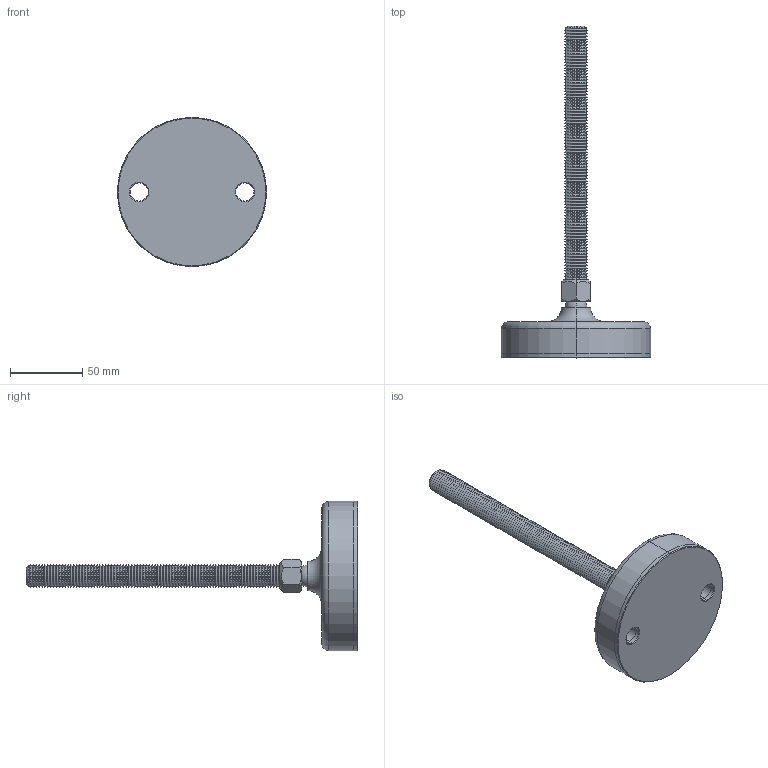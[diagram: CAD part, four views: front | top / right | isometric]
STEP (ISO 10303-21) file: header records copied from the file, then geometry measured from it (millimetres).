
FILE_DESCRIPTION (( 'STEP AP203' ), '1' );
FILE_NAME ('34724.W1702.step', '2019-11-28T22:14:33', ( '' ), ( '' ), 'SwSTEP 2.0', 'SolidWorks 2017', '' );
FILE_SCHEMA (( 'CONFIG_CONTROL_DESIGN' ));
Length unit declared in the file: millimetre
Products named in the file (4): Part2_34724.W1702; Part1_34724.W1702; Part3_34724.W1702; 34724.W1702
Assembly tree (3 placements, depth 2):
  34724.W1702
    Part1_34724.W1702
    Part2_34724.W1702
    Part3_34724.W1702
Bounding box: 103 x 229 x 103 mm (x, y, z)
Volume: 239029.1 mm3; surface area: 59701.2 mm2
Topology: 3 solids, 3 shells, 400 faces, 815 edges, 421 vertices
Faces by surface type: cone 366, plane 14, cylinder 12, sphere 4, torus 4
Entity records: 10666 total; most frequent: DIRECTION 2016, CARTESIAN_POINT 1780, ORIENTED_EDGE 1612, AXIS2_PLACEMENT_3D 816, EDGE_CURVE 806, VERTEX_POINT 416, EDGE_LOOP 412, CIRCLE 410
